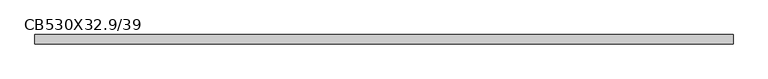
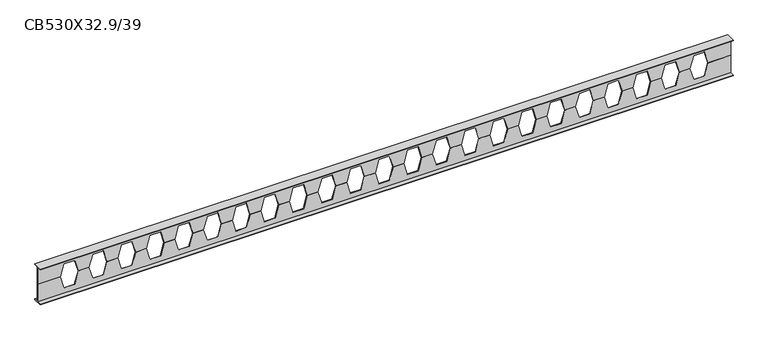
"""IFC4 building model written with IfcOpenShell, lengths in millimetres: beam geometry, Poutre alvéolaire : CB530X32.9/39."""

from ifc_helpers import new_model, si_unit, origin, place, context, project, spatial, faceted_brep, source, transform, mapped, element, save


def cb530x32_9_39_b0b7b731(model_context):
    return source(origin(), model_context, "Body", "Brep", [
        faceted_brep([(4862.0, 64.0, -255.8), (4862.0, 3.25, -255.8), (4862.0, 3.25, 0.0), (4862.0, -3.25, 0.0), (4862.0, -3.25, -255.8), (4862.0, -64.0, -255.8), (4862.0, -64.0, -266.5), (4862.0, 64.0, -266.5), (-4862.0, 3.25, -255.8), (-4862.0, 64.0, -255.8), (-4862.0, 64.0, -266.5), (-4862.0, -64.0, -266.5), (-4862.0, -64.0, -255.8), (-4862.0, -3.25, -255.8), (-4862.0, -3.25, 0.0), (-4862.0, 3.25, 0.0), (-4543.4, 3.25, 0.0), (-4492.6, 3.25, -180.0), (-4342.6, 3.25, -180.0), (-4291.8, 3.25, 0.0), (-4141.8, 3.25, 0.0), (-4091.0, 3.25, -180.0), (-3941.0, 3.25, -180.0), (-3890.2, 3.25, 0.0), (-3740.2, 3.25, 0.0), (-3689.4, 3.25, -180.0), (-3539.4, 3.25, -180.0), (-3488.6, 3.25, 0.0), (-3338.6, 3.25, 0.0), (-3287.8, 3.25, -180.0), (-3137.8, 3.25, -180.0), (-3087.0, 3.25, 0.0), (-2937.0, 3.25, 0.0), (-2886.2, 3.25, -180.0), (-2736.2, 3.25, -180.0), (-2685.4, 3.25, 0.0), (-2535.4, 3.25, 0.0), (-2484.6, 3.25, -180.0), (-2334.6, 3.25, -180.0), (-2283.8, 3.25, 0.0), (-2133.8, 3.25, 0.0), (-2083.0, 3.25, -180.0), (-1933.0, 3.25, -180.0), (-1882.2, 3.25, 0.0), (-1732.2, 3.25, 0.0), (-1681.4, 3.25, -180.0), (-1531.4, 3.25, -180.0), (-1480.6, 3.25, 0.0), (-1330.6, 3.25, 0.0), (-1279.8, 3.25, -180.0), (-1129.8, 3.25, -180.0), (-1079.0, 3.25, 0.0), (-929.0, 3.25, 0.0), (-878.2, 3.25, -180.0), (-728.2, 3.25, -180.0), (-677.4, 3.25, 0.0), (-527.4, 3.25, 0.0), (-476.6, 3.25, -180.0), (-326.6, 3.25, -180.0), (-275.8, 3.25, 0.0), (-125.8, 3.25, 0.0), (-75.0, 3.25, -180.0), (75.0, 3.25, -180.0), (125.8, 3.25, 0.0), (275.8, 3.25, 0.0), (326.6, 3.25, -180.0), (476.6, 3.25, -180.0), (527.4, 3.25, 0.0), (677.4, 3.25, 0.0), (728.2, 3.25, -180.0), (878.2, 3.25, -180.0), (929.0, 3.25, 0.0), (1079.0, 3.25, 0.0), (1129.8, 3.25, -180.0), (1279.8, 3.25, -180.0), (1330.6, 3.25, 0.0), (1480.6, 3.25, 0.0), (1531.4, 3.25, -180.0), (1681.4, 3.25, -180.0), (1732.2, 3.25, 0.0), (1882.2, 3.25, 0.0), (1933.0, 3.25, -180.0), (2083.0, 3.25, -180.0), (2133.8, 3.25, 0.0), (2283.8, 3.25, 0.0), (2334.6, 3.25, -180.0), (2484.6, 3.25, -180.0), (2535.4, 3.25, 0.0), (2685.4, 3.25, 0.0), (2736.2, 3.25, -180.0), (2886.2, 3.25, -180.0), (2937.0, 3.25, 0.0), (3087.0, 3.25, 0.0), (3137.8, 3.25, -180.0), (3287.8, 3.25, -180.0), (3338.6, 3.25, 0.0), (3488.6, 3.25, 0.0), (3539.4, 3.25, -180.0), (3689.4, 3.25, -180.0), (3740.2, 3.25, 0.0), (3890.2, 3.25, 0.0), (3941.0, 3.25, -180.0), (4091.0, 3.25, -180.0), (4141.8, 3.25, 0.0), (4291.8, 3.25, 0.0), (4342.6, 3.25, -180.0), (4492.6, 3.25, -180.0), (4543.4, 3.25, 0.0), (4543.4, -3.25, 0.0), (-4543.4, -3.25, 0.0), (-4141.8, -3.25, 0.0), (-4291.8, -3.25, 0.0), (-3890.2, -3.25, 0.0), (-3740.2, -3.25, 0.0), (4291.8, -3.25, 0.0), (4141.8, -3.25, 0.0), (-3488.6, -3.25, 0.0), (-3338.6, -3.25, 0.0), (-3087.0, -3.25, 0.0), (-2937.0, -3.25, 0.0), (-2685.4, -3.25, 0.0), (-2535.4, -3.25, 0.0), (-2283.8, -3.25, 0.0), (-2133.8, -3.25, 0.0), (-1882.2, -3.25, 0.0), (-1732.2, -3.25, 0.0), (-1480.6, -3.25, 0.0), (-1330.6, -3.25, 0.0), (-1079.0, -3.25, 0.0), (-929.0, -3.25, 0.0), (-677.4, -3.25, 0.0), (-527.4, -3.25, 0.0), (-275.8, -3.25, 0.0), (-125.8, -3.25, 0.0), (125.8, -3.25, 0.0), (275.8, -3.25, 0.0), (527.4, -3.25, 0.0), (677.4, -3.25, 0.0), (929.0, -3.25, 0.0), (1079.0, -3.25, 0.0), (1330.6, -3.25, 0.0), (1480.6, -3.25, 0.0), (1732.2, -3.25, 0.0), (1882.2, -3.25, 0.0), (2133.8, -3.25, 0.0), (2283.8, -3.25, 0.0), (2535.4, -3.25, 0.0), (2685.4, -3.25, 0.0), (2937.0, -3.25, 0.0), (3087.0, -3.25, 0.0), (3338.6, -3.25, 0.0), (3488.6, -3.25, 0.0), (3740.2, -3.25, 0.0), (3890.2, -3.25, 0.0), (4492.6, -3.25, -180.0), (4342.6, -3.25, -180.0), (4091.0, -3.25, -180.0), (3941.0, -3.25, -180.0), (3689.4, -3.25, -180.0), (3539.4, -3.25, -180.0), (3287.8, -3.25, -180.0), (3137.8, -3.25, -180.0), (2886.2, -3.25, -180.0), (2736.2, -3.25, -180.0), (2484.6, -3.25, -180.0), (2334.6, -3.25, -180.0), (2083.0, -3.25, -180.0), (1933.0, -3.25, -180.0), (1681.4, -3.25, -180.0), (1531.4, -3.25, -180.0), (1279.8, -3.25, -180.0), (1129.8, -3.25, -180.0), (878.2, -3.25, -180.0), (728.2, -3.25, -180.0), (476.6, -3.25, -180.0), (326.6, -3.25, -180.0), (75.0, -3.25, -180.0), (-75.0, -3.25, -180.0), (-326.6, -3.25, -180.0), (-476.6, -3.25, -180.0), (-728.2, -3.25, -180.0), (-878.2, -3.25, -180.0), (-1129.8, -3.25, -180.0), (-1279.8, -3.25, -180.0), (-1531.4, -3.25, -180.0), (-1681.4, -3.25, -180.0), (-1933.0, -3.25, -180.0), (-2083.0, -3.25, -180.0), (-2334.6, -3.25, -180.0), (-2484.6, -3.25, -180.0), (-2736.2, -3.25, -180.0), (-2886.2, -3.25, -180.0), (-3137.8, -3.25, -180.0), (-3287.8, -3.25, -180.0), (-3539.4, -3.25, -180.0), (-3689.4, -3.25, -180.0), (-3941.0, -3.25, -180.0), (-4091.0, -3.25, -180.0), (-4342.6, -3.25, -180.0), (-4492.6, -3.25, -180.0)], [[[0, 1, 2, 3, 4, 5, 6, 7]], [[8, 9, 10, 11, 12, 13, 14, 15]], [[1, 0, 9, 8]], [[2, 1, 8, 15, 16, 17, 18, 19, 20, 21, 22, 23, 24, 25, 26, 27, 28, 29, 30, 31, 32, 33, 34, 35, 36, 37, 38, 39, 40, 41, 42, 43, 44, 45, 46, 47, 48, 49, 50, 51, 52, 53, 54, 55, 56, 57, 58, 59, 60, 61, 62, 63, 64, 65, 66, 67, 68, 69, 70, 71, 72, 73, 74, 75, 76, 77, 78, 79, 80, 81, 82, 83, 84, 85, 86, 87, 88, 89, 90, 91, 92, 93, 94, 95, 96, 97, 98, 99, 100, 101, 102, 103, 104, 105, 106, 107]], [[3, 2, 107, 108]], [[15, 14, 109, 16]], [[110, 20, 19, 111]], [[23, 112, 113, 24]], [[114, 104, 103, 115]], [[27, 116, 117, 28]], [[31, 118, 119, 32]], [[35, 120, 121, 36]], [[39, 122, 123, 40]], [[43, 124, 125, 44]], [[47, 126, 127, 48]], [[51, 128, 129, 52]], [[55, 130, 131, 56]], [[59, 132, 133, 60]], [[63, 134, 135, 64]], [[67, 136, 137, 68]], [[71, 138, 139, 72]], [[75, 140, 141, 76]], [[79, 142, 143, 80]], [[83, 144, 145, 84]], [[87, 146, 147, 88]], [[91, 148, 149, 92]], [[95, 150, 151, 96]], [[99, 152, 153, 100]], [[4, 3, 108, 154, 155, 114, 115, 156, 157, 153, 152, 158, 159, 151, 150, 160, 161, 149, 148, 162, 163, 147, 146, 164, 165, 145, 144, 166, 167, 143, 142, 168, 169, 141, 140, 170, 171, 139, 138, 172, 173, 137, 136, 174, 175, 135, 134, 176, 177, 133, 132, 178, 179, 131, 130, 180, 181, 129, 128, 182, 183, 127, 126, 184, 185, 125, 124, 186, 187, 123, 122, 188, 189, 121, 120, 190, 191, 119, 118, 192, 193, 117, 116, 194, 195, 113, 112, 196, 197, 110, 111, 198, 199, 109, 14, 13]], [[5, 4, 13, 12]], [[6, 5, 12, 11]], [[7, 6, 11, 10]], [[0, 7, 10, 9]], [[197, 21, 20, 110]], [[21, 197, 196, 22]], [[22, 196, 112, 23]], [[155, 105, 104, 114]], [[105, 155, 154, 106]], [[106, 154, 108, 107]], [[199, 17, 16, 109]], [[17, 199, 198, 18]], [[18, 198, 111, 19]], [[195, 25, 24, 113]], [[25, 195, 194, 26]], [[26, 194, 116, 27]], [[193, 29, 28, 117]], [[29, 193, 192, 30]], [[30, 192, 118, 31]], [[191, 33, 32, 119]], [[33, 191, 190, 34]], [[34, 190, 120, 35]], [[189, 37, 36, 121]], [[37, 189, 188, 38]], [[38, 188, 122, 39]], [[187, 41, 40, 123]], [[41, 187, 186, 42]], [[42, 186, 124, 43]], [[185, 45, 44, 125]], [[45, 185, 184, 46]], [[46, 184, 126, 47]], [[183, 49, 48, 127]], [[49, 183, 182, 50]], [[50, 182, 128, 51]], [[181, 53, 52, 129]], [[53, 181, 180, 54]], [[54, 180, 130, 55]], [[179, 57, 56, 131]], [[57, 179, 178, 58]], [[58, 178, 132, 59]], [[177, 61, 60, 133]], [[61, 177, 176, 62]], [[62, 176, 134, 63]], [[175, 65, 64, 135]], [[65, 175, 174, 66]], [[66, 174, 136, 67]], [[173, 69, 68, 137]], [[69, 173, 172, 70]], [[70, 172, 138, 71]], [[171, 73, 72, 139]], [[73, 171, 170, 74]], [[74, 170, 140, 75]], [[169, 77, 76, 141]], [[77, 169, 168, 78]], [[78, 168, 142, 79]], [[167, 81, 80, 143]], [[81, 167, 166, 82]], [[82, 166, 144, 83]], [[165, 85, 84, 145]], [[85, 165, 164, 86]], [[86, 164, 146, 87]], [[163, 89, 88, 147]], [[89, 163, 162, 90]], [[90, 162, 148, 91]], [[161, 93, 92, 149]], [[93, 161, 160, 94]], [[94, 160, 150, 95]], [[159, 97, 96, 151]], [[97, 159, 158, 98]], [[98, 158, 152, 99]], [[157, 101, 100, 153]], [[101, 157, 156, 102]], [[102, 156, 115, 103]]]),
        faceted_brep([(4862.0, 2.9, 0.0), (4862.0, 2.9, 256.0), (4862.0, 63.5, 256.0), (4862.0, 63.5, 264.5), (4862.0, -63.5, 264.5), (4862.0, -63.5, 256.0), (4862.0, -2.9, 256.0), (4862.0, -2.9, 0.0), (-4862.0, 2.9, 256.0), (-4862.0, 2.9, 0.0), (-4862.0, -2.9, 0.0), (-4862.0, -2.9, 256.0), (-4862.0, -63.5, 256.0), (-4862.0, -63.5, 264.5), (-4862.0, 63.5, 264.5), (-4862.0, 63.5, 256.0), (4543.4, 2.9, 0.0), (4492.6, 2.9, 180.0), (4342.6, 2.9, 180.0), (4291.8, 2.9, 0.0), (4141.8, 2.9, 0.0), (4091.0, 2.9, 180.0), (3941.0, 2.9, 180.0), (3890.2, 2.9, 0.0), (3740.2, 2.9, 0.0), (3689.4, 2.9, 180.0), (3539.4, 2.9, 180.0), (3488.6, 2.9, 0.0), (3338.6, 2.9, 0.0), (3287.8, 2.9, 180.0), (3137.8, 2.9, 180.0), (3087.0, 2.9, 0.0), (2937.0, 2.9, 0.0), (2886.2, 2.9, 180.0), (2736.2, 2.9, 180.0), (2685.4, 2.9, 0.0), (2535.4, 2.9, 0.0), (2484.6, 2.9, 180.0), (2334.6, 2.9, 180.0), (2283.8, 2.9, 0.0), (2133.8, 2.9, 0.0), (2083.0, 2.9, 180.0), (1933.0, 2.9, 180.0), (1882.2, 2.9, 0.0), (1732.2, 2.9, 0.0), (1681.4, 2.9, 180.0), (1531.4, 2.9, 180.0), (1480.6, 2.9, 0.0), (1330.6, 2.9, 0.0), (1279.8, 2.9, 180.0), (1129.8, 2.9, 180.0), (1079.0, 2.9, 0.0), (929.0, 2.9, 0.0), (878.2, 2.9, 180.0), (728.2, 2.9, 180.0), (677.4, 2.9, 0.0), (527.4, 2.9, 0.0), (476.6, 2.9, 180.0), (326.6, 2.9, 180.0), (275.8, 2.9, 0.0), (125.8, 2.9, 0.0), (75.0, 2.9, 180.0), (-75.0, 2.9, 180.0), (-125.8, 2.9, 0.0), (-275.8, 2.9, 0.0), (-326.6, 2.9, 180.0), (-476.6, 2.9, 180.0), (-527.4, 2.9, 0.0), (-677.4, 2.9, 0.0), (-728.2, 2.9, 180.0), (-878.2, 2.9, 180.0), (-929.0, 2.9, 0.0), (-1079.0, 2.9, 0.0), (-1129.8, 2.9, 180.0), (-1279.8, 2.9, 180.0), (-1330.6, 2.9, 0.0), (-1480.6, 2.9, 0.0), (-1531.4, 2.9, 180.0), (-1681.4, 2.9, 180.0), (-1732.2, 2.9, 0.0), (-1882.2, 2.9, 0.0), (-1933.0, 2.9, 180.0), (-2083.0, 2.9, 180.0), (-2133.8, 2.9, 0.0), (-2283.8, 2.9, 0.0), (-2334.6, 2.9, 180.0), (-2484.6, 2.9, 180.0), (-2535.4, 2.9, 0.0), (-2685.4, 2.9, 0.0), (-2736.2, 2.9, 180.0), (-2886.2, 2.9, 180.0), (-2937.0, 2.9, 0.0), (-3087.0, 2.9, 0.0), (-3137.8, 2.9, 180.0), (-3287.8, 2.9, 180.0), (-3338.6, 2.9, 0.0), (-3488.6, 2.9, 0.0), (-3539.4, 2.9, 180.0), (-3689.4, 2.9, 180.0), (-3740.2, 2.9, 0.0), (-3890.2, 2.9, 0.0), (-3941.0, 2.9, 180.0), (-4091.0, 2.9, 180.0), (-4141.8, 2.9, 0.0), (-4291.8, 2.9, 0.0), (-4342.6, 2.9, 180.0), (-4492.6, 2.9, 180.0), (-4543.4, 2.9, 0.0), (-4543.4, -2.9, 0.0), (-4492.6, -2.9, 180.0), (-4342.6, -2.9, 180.0), (-4291.8, -2.9, 0.0), (-4141.8, -2.9, 0.0), (-4091.0, -2.9, 180.0), (-3941.0, -2.9, 180.0), (-3890.2, -2.9, 0.0), (-3740.2, -2.9, 0.0), (-3689.4, -2.9, 180.0), (-3539.4, -2.9, 180.0), (-3488.6, -2.9, 0.0), (-3338.6, -2.9, 0.0), (-3287.8, -2.9, 180.0), (-3137.8, -2.9, 180.0), (-3087.0, -2.9, 0.0), (-2937.0, -2.9, 0.0), (-2886.2, -2.9, 180.0), (-2736.2, -2.9, 180.0), (-2685.4, -2.9, 0.0), (-2535.4, -2.9, 0.0), (-2484.6, -2.9, 180.0), (-2334.6, -2.9, 180.0), (-2283.8, -2.9, 0.0), (-2133.8, -2.9, 0.0), (-2083.0, -2.9, 180.0), (-1933.0, -2.9, 180.0), (-1882.2, -2.9, 0.0), (-1732.2, -2.9, 0.0), (-1681.4, -2.9, 180.0), (-1531.4, -2.9, 180.0), (-1480.6, -2.9, 0.0), (-1330.6, -2.9, 0.0), (-1279.8, -2.9, 180.0), (-1129.8, -2.9, 180.0), (-1079.0, -2.9, 0.0), (-929.0, -2.9, 0.0), (-878.2, -2.9, 180.0), (-728.2, -2.9, 180.0), (-677.4, -2.9, 0.0), (-527.4, -2.9, 0.0), (-476.6, -2.9, 180.0), (-326.6, -2.9, 180.0), (-275.8, -2.9, 0.0), (-125.8, -2.9, 0.0), (-75.0, -2.9, 180.0), (75.0, -2.9, 180.0), (125.8, -2.9, 0.0), (275.8, -2.9, 0.0), (326.6, -2.9, 180.0), (476.6, -2.9, 180.0), (527.4, -2.9, 0.0), (677.4, -2.9, 0.0), (728.2, -2.9, 180.0), (878.2, -2.9, 180.0), (929.0, -2.9, 0.0), (1079.0, -2.9, 0.0), (1129.8, -2.9, 180.0), (1279.8, -2.9, 180.0), (1330.6, -2.9, 0.0), (1480.6, -2.9, 0.0), (1531.4, -2.9, 180.0), (1681.4, -2.9, 180.0), (1732.2, -2.9, 0.0), (1882.2, -2.9, 0.0), (1933.0, -2.9, 180.0), (2083.0, -2.9, 180.0), (2133.8, -2.9, 0.0), (2283.8, -2.9, 0.0), (2334.6, -2.9, 180.0), (2484.6, -2.9, 180.0), (2535.4, -2.9, 0.0), (2685.4, -2.9, 0.0), (2736.2, -2.9, 180.0), (2886.2, -2.9, 180.0), (2937.0, -2.9, 0.0), (3087.0, -2.9, 0.0), (3137.8, -2.9, 180.0), (3287.8, -2.9, 180.0), (3338.6, -2.9, 0.0), (3488.6, -2.9, 0.0), (3539.4, -2.9, 180.0), (3689.4, -2.9, 180.0), (3740.2, -2.9, 0.0), (3890.2, -2.9, 0.0), (3941.0, -2.9, 180.0), (4091.0, -2.9, 180.0), (4141.8, -2.9, 0.0), (4291.8, -2.9, 0.0), (4342.6, -2.9, 180.0), (4492.6, -2.9, 180.0), (4543.4, -2.9, 0.0)], [[[0, 1, 2, 3, 4, 5, 6, 7]], [[8, 9, 10, 11, 12, 13, 14, 15]], [[1, 0, 16, 17, 18, 19, 20, 21, 22, 23, 24, 25, 26, 27, 28, 29, 30, 31, 32, 33, 34, 35, 36, 37, 38, 39, 40, 41, 42, 43, 44, 45, 46, 47, 48, 49, 50, 51, 52, 53, 54, 55, 56, 57, 58, 59, 60, 61, 62, 63, 64, 65, 66, 67, 68, 69, 70, 71, 72, 73, 74, 75, 76, 77, 78, 79, 80, 81, 82, 83, 84, 85, 86, 87, 88, 89, 90, 91, 92, 93, 94, 95, 96, 97, 98, 99, 100, 101, 102, 103, 104, 105, 106, 107, 9, 8]], [[2, 1, 8, 15]], [[3, 2, 15, 14]], [[4, 3, 14, 13]], [[5, 4, 13, 12]], [[6, 5, 12, 11]], [[7, 6, 11, 10, 108, 109, 110, 111, 112, 113, 114, 115, 116, 117, 118, 119, 120, 121, 122, 123, 124, 125, 126, 127, 128, 129, 130, 131, 132, 133, 134, 135, 136, 137, 138, 139, 140, 141, 142, 143, 144, 145, 146, 147, 148, 149, 150, 151, 152, 153, 154, 155, 156, 157, 158, 159, 160, 161, 162, 163, 164, 165, 166, 167, 168, 169, 170, 171, 172, 173, 174, 175, 176, 177, 178, 179, 180, 181, 182, 183, 184, 185, 186, 187, 188, 189, 190, 191, 192, 193, 194, 195, 196, 197, 198, 199]], [[0, 7, 199, 16]], [[10, 9, 107, 108]], [[103, 112, 111, 104]], [[115, 100, 99, 116]], [[19, 196, 195, 20]], [[119, 96, 95, 120]], [[123, 92, 91, 124]], [[127, 88, 87, 128]], [[131, 84, 83, 132]], [[135, 80, 79, 136]], [[139, 76, 75, 140]], [[143, 72, 71, 144]], [[147, 68, 67, 148]], [[151, 64, 63, 152]], [[155, 60, 59, 156]], [[159, 56, 55, 160]], [[163, 52, 51, 164]], [[167, 48, 47, 168]], [[171, 44, 43, 172]], [[175, 40, 39, 176]], [[179, 36, 35, 180]], [[183, 32, 31, 184]], [[187, 28, 27, 188]], [[191, 24, 23, 192]], [[102, 113, 112, 103]], [[113, 102, 101, 114]], [[114, 101, 100, 115]], [[18, 197, 196, 19]], [[197, 18, 17, 198]], [[198, 17, 16, 199]], [[106, 109, 108, 107]], [[109, 106, 105, 110]], [[110, 105, 104, 111]], [[98, 117, 116, 99]], [[117, 98, 97, 118]], [[118, 97, 96, 119]], [[94, 121, 120, 95]], [[121, 94, 93, 122]], [[122, 93, 92, 123]], [[90, 125, 124, 91]], [[125, 90, 89, 126]], [[126, 89, 88, 127]], [[86, 129, 128, 87]], [[129, 86, 85, 130]], [[130, 85, 84, 131]], [[82, 133, 132, 83]], [[133, 82, 81, 134]], [[134, 81, 80, 135]], [[78, 137, 136, 79]], [[137, 78, 77, 138]], [[138, 77, 76, 139]], [[74, 141, 140, 75]], [[141, 74, 73, 142]], [[142, 73, 72, 143]], [[70, 145, 144, 71]], [[145, 70, 69, 146]], [[146, 69, 68, 147]], [[66, 149, 148, 67]], [[149, 66, 65, 150]], [[150, 65, 64, 151]], [[62, 153, 152, 63]], [[153, 62, 61, 154]], [[154, 61, 60, 155]], [[58, 157, 156, 59]], [[157, 58, 57, 158]], [[158, 57, 56, 159]], [[54, 161, 160, 55]], [[161, 54, 53, 162]], [[162, 53, 52, 163]], [[50, 165, 164, 51]], [[165, 50, 49, 166]], [[166, 49, 48, 167]], [[46, 169, 168, 47]], [[169, 46, 45, 170]], [[170, 45, 44, 171]], [[42, 173, 172, 43]], [[173, 42, 41, 174]], [[174, 41, 40, 175]], [[38, 177, 176, 39]], [[177, 38, 37, 178]], [[178, 37, 36, 179]], [[34, 181, 180, 35]], [[181, 34, 33, 182]], [[182, 33, 32, 183]], [[30, 185, 184, 31]], [[185, 30, 29, 186]], [[186, 29, 28, 187]], [[26, 189, 188, 27]], [[189, 26, 25, 190]], [[190, 25, 24, 191]], [[22, 193, 192, 23]], [[193, 22, 21, 194]], [[194, 21, 20, 195]]]),
    ])


if __name__ == "__main__":
    model = new_model("IFC4")
    model_context = context("Model", 3, world=origin())
    ifc_project = project(units=[si_unit("LENGTHUNIT", "METRE", prefix="MILLI")], contexts=[model_context])
    site = spatial("IfcSite", under=ifc_project)
    building = spatial("IfcBuilding", under=site)
    placement = place(None, origin())
    cb530x32_9_39_shape = cb530x32_9_39_b0b7b731(model_context)
    element("IfcBeam", 1, ObjectType="Poutre alvéolaire : CB530X32.9/39", at=placement, inside=building, context=model_context, shape_type="MappedRepresentation", body=[
        mapped(cb530x32_9_39_shape, transform((0.0, 0.0, 0.0), x_axis=(1.0, 0.0, 0.0), y_axis=(0.0, 1.0, 0.0), z_axis=(0.0, 0.0, 1.0))),
    ])
    save(model, "model.ifc")
